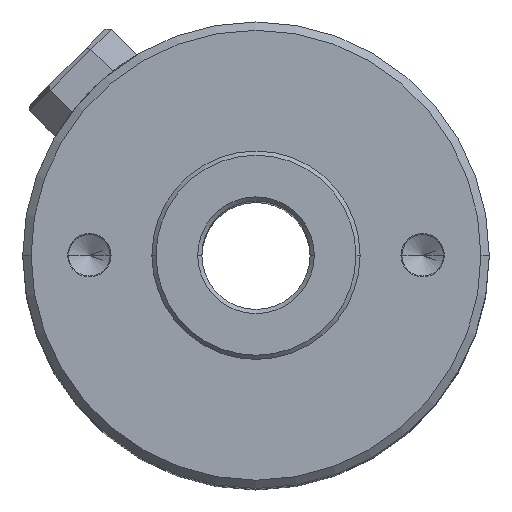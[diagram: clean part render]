
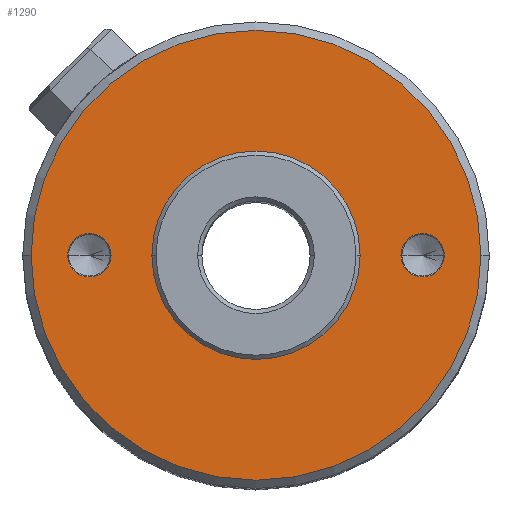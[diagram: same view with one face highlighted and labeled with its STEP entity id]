
A CAD part, top view. The second image highlights one B-rep face of the part: STEP entity #1290.
In plain terms, the highlighted planar face has unit normal (0, 0, 1).
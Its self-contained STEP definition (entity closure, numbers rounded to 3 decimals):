
#15 = AXIS2_PLACEMENT_3D ( 'NONE', #1772, #678, #1946 ) ;
#30 = ORIENTED_EDGE ( 'NONE', *, *, #1811, .T. ) ;
#69 = VERTEX_POINT ( 'NONE', #2317 ) ;
#119 = ORIENTED_EDGE ( 'NONE', *, *, #2094, .F. ) ;
#140 = CIRCLE ( 'NONE', #1199, 2.6 ) ;
#173 = EDGE_LOOP ( 'NONE', ( #554, #812 ) ) ;
#189 = CIRCLE ( 'NONE', #1775, 2.6 ) ;
#191 = CARTESIAN_POINT ( 'NONE',  ( 0., 0., 103. ) ) ;
#196 = PLANE ( 'NONE',  #841 ) ;
#268 = VERTEX_POINT ( 'NONE', #1880 ) ;
#270 = AXIS2_PLACEMENT_3D ( 'NONE', #1383, #301, #1555 ) ;
#274 = EDGE_LOOP ( 'NONE', ( #119, #1157 ) ) ;
#301 = DIRECTION ( 'NONE',  ( 0., 0., -1. ) ) ;
#364 = FACE_BOUND ( 'NONE', #274, .T. ) ;
#370 = DIRECTION ( 'NONE',  ( 1., 0., 0. ) ) ;
#483 = CARTESIAN_POINT ( 'NONE',  ( -22.6, 0., 103. ) ) ;
#504 = AXIS2_PLACEMENT_3D ( 'NONE', #1794, #697, #1970 ) ;
#514 = EDGE_LOOP ( 'NONE', ( #685, #2179 ) ) ;
#554 = ORIENTED_EDGE ( 'NONE', *, *, #2310, .T. ) ;
#634 = DIRECTION ( 'NONE',  ( 0., 0., -1. ) ) ;
#661 = CARTESIAN_POINT ( 'NONE',  ( 0., 0., 103. ) ) ;
#678 = DIRECTION ( 'NONE',  ( 0., 0., 1. ) ) ;
#685 = ORIENTED_EDGE ( 'NONE', *, *, #817, .T. ) ;
#697 = DIRECTION ( 'NONE',  ( 0., 0., 1. ) ) ;
#715 = EDGE_CURVE ( 'NONE', #2278, #1676, #140, .T. ) ;
#794 = CARTESIAN_POINT ( 'NONE',  ( 17.4, 0., 103. ) ) ;
#799 = FACE_BOUND ( 'NONE', #514, .T. ) ;
#812 = ORIENTED_EDGE ( 'NONE', *, *, #1926, .T. ) ;
#817 = EDGE_CURVE ( 'NONE', #1676, #2278, #189, .T. ) ;
#841 = AXIS2_PLACEMENT_3D ( 'NONE', #1454, #2007, #919 ) ;
#853 = DIRECTION ( 'NONE',  ( 1., 0., 0. ) ) ;
#904 = VERTEX_POINT ( 'NONE', #1646 ) ;
#919 = DIRECTION ( 'NONE',  ( 1., 0., 0. ) ) ;
#947 = DIRECTION ( 'NONE',  ( 0., 0., -1. ) ) ;
#975 = DIRECTION ( 'NONE',  ( 0., 0., -1. ) ) ;
#1145 = CARTESIAN_POINT ( 'NONE',  ( -27., 0., 103. ) ) ;
#1157 = ORIENTED_EDGE ( 'NONE', *, *, #1216, .F. ) ;
#1199 = AXIS2_PLACEMENT_3D ( 'NONE', #2061, #975, #2246 ) ;
#1216 = EDGE_CURVE ( 'NONE', #268, #69, #1874, .T. ) ;
#1219 = VERTEX_POINT ( 'NONE', #483 ) ;
#1255 = ORIENTED_EDGE ( 'NONE', *, *, #2178, .T. ) ;
#1270 = FACE_BOUND ( 'NONE', #1619, .T. ) ;
#1290 = ADVANCED_FACE ( 'NONE', ( #1768, #799, #1270, #364 ), #196, .T. ) ;
#1383 = CARTESIAN_POINT ( 'NONE',  ( -20., 0., 103. ) ) ;
#1449 = DIRECTION ( 'NONE',  ( 0., 0., 1. ) ) ;
#1454 = CARTESIAN_POINT ( 'NONE',  ( 0., 0., 103. ) ) ;
#1490 = CIRCLE ( 'NONE', #1645, 2.6 ) ;
#1515 = CARTESIAN_POINT ( 'NONE',  ( 22.6, 0., 103. ) ) ;
#1534 = AXIS2_PLACEMENT_3D ( 'NONE', #191, #1449, #370 ) ;
#1555 = DIRECTION ( 'NONE',  ( 1., 0., 0. ) ) ;
#1567 = VERTEX_POINT ( 'NONE', #1913 ) ;
#1619 = EDGE_LOOP ( 'NONE', ( #30, #1255 ) ) ;
#1636 = CIRCLE ( 'NONE', #270, 2.6 ) ;
#1645 = AXIS2_PLACEMENT_3D ( 'NONE', #2035, #947, #2219 ) ;
#1646 = CARTESIAN_POINT ( 'NONE',  ( 27., 0., 103. ) ) ;
#1676 = VERTEX_POINT ( 'NONE', #1515 ) ;
#1697 = CIRCLE ( 'NONE', #1534, 27. ) ;
#1727 = CARTESIAN_POINT ( 'NONE',  ( 20., 0., 103. ) ) ;
#1768 = FACE_OUTER_BOUND ( 'NONE', #173, .T. ) ;
#1772 = CARTESIAN_POINT ( 'NONE',  ( 0., 0., 103. ) ) ;
#1775 = AXIS2_PLACEMENT_3D ( 'NONE', #1727, #634, #1905 ) ;
#1794 = CARTESIAN_POINT ( 'NONE',  ( 0., 0., 103. ) ) ;
#1811 = EDGE_CURVE ( 'NONE', #1567, #1219, #1636, .T. ) ;
#1874 = CIRCLE ( 'NONE', #2043, 12.5 ) ;
#1880 = CARTESIAN_POINT ( 'NONE',  ( 12.5, 0., 103. ) ) ;
#1903 = CIRCLE ( 'NONE', #15, 27. ) ;
#1905 = DIRECTION ( 'NONE',  ( 1., 0., 0. ) ) ;
#1913 = CARTESIAN_POINT ( 'NONE',  ( -17.4, 0., 103. ) ) ;
#1926 = EDGE_CURVE ( 'NONE', #904, #2211, #1903, .T. ) ;
#1928 = DIRECTION ( 'NONE',  ( 0., 0., 1. ) ) ;
#1946 = DIRECTION ( 'NONE',  ( 1., 0., 0. ) ) ;
#1970 = DIRECTION ( 'NONE',  ( 1., 0., 0. ) ) ;
#2007 = DIRECTION ( 'NONE',  ( 0., 0., 1. ) ) ;
#2033 = CIRCLE ( 'NONE', #504, 12.5 ) ;
#2035 = CARTESIAN_POINT ( 'NONE',  ( -20., 0., 103. ) ) ;
#2043 = AXIS2_PLACEMENT_3D ( 'NONE', #661, #1928, #853 ) ;
#2061 = CARTESIAN_POINT ( 'NONE',  ( 20., 0., 103. ) ) ;
#2094 = EDGE_CURVE ( 'NONE', #69, #268, #2033, .T. ) ;
#2178 = EDGE_CURVE ( 'NONE', #1219, #1567, #1490, .T. ) ;
#2179 = ORIENTED_EDGE ( 'NONE', *, *, #715, .T. ) ;
#2211 = VERTEX_POINT ( 'NONE', #1145 ) ;
#2219 = DIRECTION ( 'NONE',  ( 1., 0., 0. ) ) ;
#2246 = DIRECTION ( 'NONE',  ( 1., 0., 0. ) ) ;
#2278 = VERTEX_POINT ( 'NONE', #794 ) ;
#2310 = EDGE_CURVE ( 'NONE', #2211, #904, #1697, .T. ) ;
#2317 = CARTESIAN_POINT ( 'NONE',  ( -12.5, 0., 103. ) ) ;
